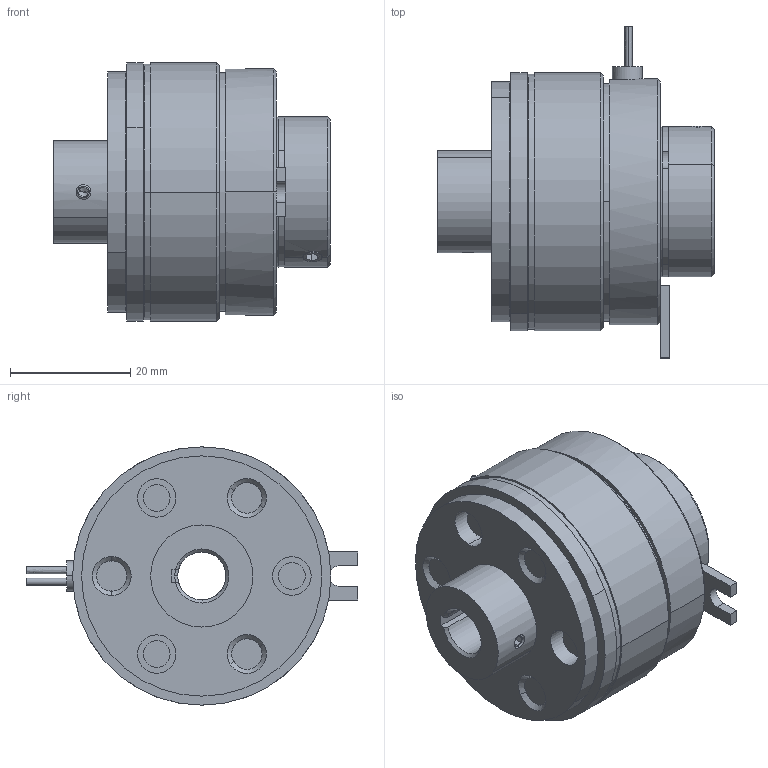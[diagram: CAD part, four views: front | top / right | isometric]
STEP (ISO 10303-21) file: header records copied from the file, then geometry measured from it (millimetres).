
FILE_DESCRIPTION((''),'2;1');
FILE_NAME('G:\Konstruktion\Datenkonvertierung\step\14.100.04.301.stp','2004-02-16T10:52:50',('Schöttelndreier'),(''),'Autodesk Inventor 8','Autodesk Inventor 8','');
FILE_SCHEMA(('AUTOMOTIVE_DESIGN { 1 0 10303 214 1 1 1 1 }'));
Length unit declared in the file: millimetre
Products named in the file (23): 14.100.04.301; 14.100.04.995-001 dxf; 14.100.04.999-001 dxf; 14.102.02-18.202 dxf; Lager; Spule_04 dxf; 14.100.04.994-100 dxf; 14.100.04.996-001 dxf; 14.100.04.992-150 dxf; Spritzmasse; 14.100.04.992-300 dxf; Reibbelag_04 dxf; 14.100.04.991-252; 14.100.04.991-300; 14.100.04.001-001; 14.100.04.993-200; 14.102.04-53.002; 14.100.04.993-001; Niet1; Niet2; DIN 916  (Regelgewinde) M3  x  4; DIN 916  (Regelgewinde) M4  x  8
Assembly tree (28 placements, depth 4):
  14.100.04.301
    14.100.04.995-001 dxf
      14.100.04.999-001 dxf
        14.100.04.999-001 dxf
        14.102.02-18.202 dxf
      Lager
      Spule_04 dxf
      14.100.04.994-100 dxf
    14.100.04.996-001 dxf
      14.100.04.992-150 dxf
      Spritzmasse
      14.100.04.992-300 dxf
      Reibbelag_04 dxf
    14.100.04.991-252
    14.100.04.991-300  x2
    14.100.04.001-001
      14.100.04.993-200
      14.102.04-53.002
      14.100.04.993-001
      Niet1  x3
      Niet2  x3
      DIN 916  (Regelgewinde) M3  x  4
    DIN 916  (Regelgewinde) M4  x  8  x2
Bounding box: 46.1 x 55.25 x 43 mm (x, y, z)
Volume: 38874.1 mm3; surface area: 37732.1 mm2
Topology: 24 solids, 24 shells, 377 faces, 857 edges, 534 vertices
Faces by surface type: cylinder 167, plane 122, cone 77, bspline 9, torus 2
Entity records: 10347 total; most frequent: CARTESIAN_POINT 2292, DIRECTION 1715, ORIENTED_EDGE 1438, EDGE_CURVE 719, AXIS2_PLACEMENT_3D 701, VERTEX_POINT 458, EDGE_LOOP 395, CIRCLE 349
